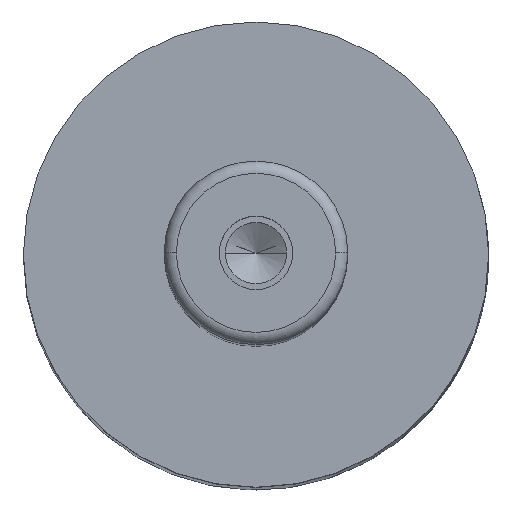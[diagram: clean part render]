
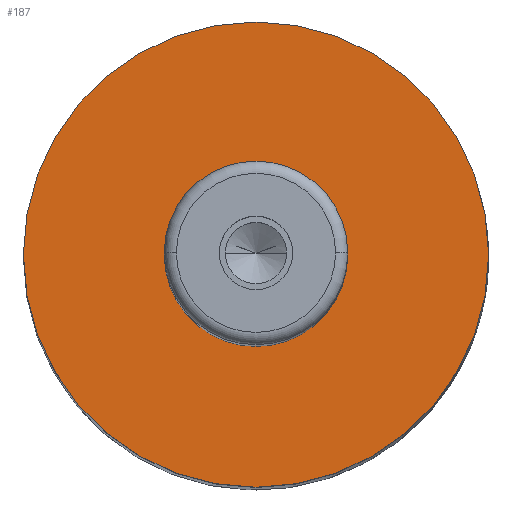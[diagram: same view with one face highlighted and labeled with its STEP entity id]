
A CAD part, top view. The second image highlights one B-rep face of the part: STEP entity #187.
In plain terms, the highlighted planar face has unit normal (0, 0, 1).
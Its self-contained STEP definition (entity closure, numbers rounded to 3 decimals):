
#109=PLANE('',#1002);
#132=FACE_BOUND('',#299,.T.);
#133=FACE_BOUND('',#300,.T.);
#187=ADVANCED_FACE('',(#132,#133),#109,.T.);
#299=EDGE_LOOP('',(#463,#464));
#300=EDGE_LOOP('',(#465,#466));
#367=CIRCLE('',#996,7.5);
#368=CIRCLE('',#998,7.5);
#369=CIRCLE('',#1000,19.);
#370=CIRCLE('',#1001,19.);
#463=ORIENTED_EDGE('',*,*,#766,.F.);
#464=ORIENTED_EDGE('',*,*,#767,.F.);
#465=ORIENTED_EDGE('',*,*,#765,.T.);
#466=ORIENTED_EDGE('',*,*,#763,.T.);
#676=VERTEX_POINT('',#1435);
#677=VERTEX_POINT('',#1437);
#678=VERTEX_POINT('',#1443);
#679=VERTEX_POINT('',#1444);
#763=EDGE_CURVE('',#677,#676,#367,.T.);
#765=EDGE_CURVE('',#676,#677,#368,.T.);
#766=EDGE_CURVE('',#678,#679,#369,.T.);
#767=EDGE_CURVE('',#679,#678,#370,.T.);
#996=AXIS2_PLACEMENT_3D('',#1436,#1150,#1151);
#998=AXIS2_PLACEMENT_3D('',#1440,#1155,#1156);
#1000=AXIS2_PLACEMENT_3D('',#1442,#1159,#1160);
#1001=AXIS2_PLACEMENT_3D('',#1445,#1161,#1162);
#1002=AXIS2_PLACEMENT_3D('',#1446,#1163,#1164);
#1150=DIRECTION('',(0.,0.,-1.));
#1151=DIRECTION('',(0.,1.,0.));
#1155=DIRECTION('',(0.,0.,-1.));
#1156=DIRECTION('',(0.,-1.,0.));
#1159=DIRECTION('',(0.,0.,-1.));
#1160=DIRECTION('',(0.,1.,0.));
#1161=DIRECTION('',(0.,0.,-1.));
#1162=DIRECTION('',(0.,-1.,0.));
#1163=DIRECTION('',(0.,0.,1.));
#1164=DIRECTION('',(0.,-1.,0.));
#1435=CARTESIAN_POINT('',(-7.5,0.,128.));
#1436=CARTESIAN_POINT('',(0.,0.,128.));
#1437=CARTESIAN_POINT('',(7.5,0.,128.));
#1440=CARTESIAN_POINT('',(0.,0.,128.));
#1442=CARTESIAN_POINT('',(0.,0.,128.));
#1443=CARTESIAN_POINT('',(19.,0.,128.));
#1444=CARTESIAN_POINT('',(-19.,0.,128.));
#1445=CARTESIAN_POINT('',(0.,0.,128.));
#1446=CARTESIAN_POINT('',(0.,0.,128.));
